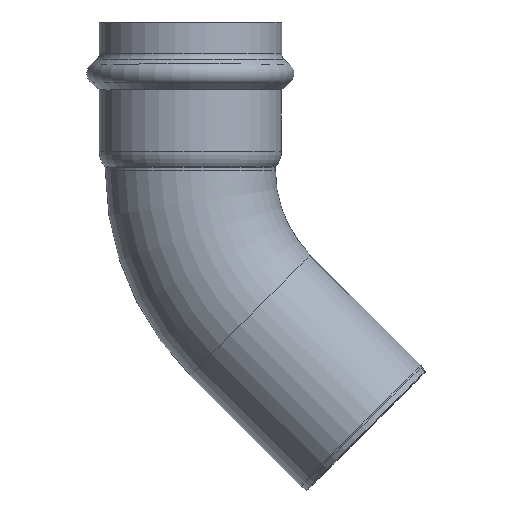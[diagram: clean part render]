
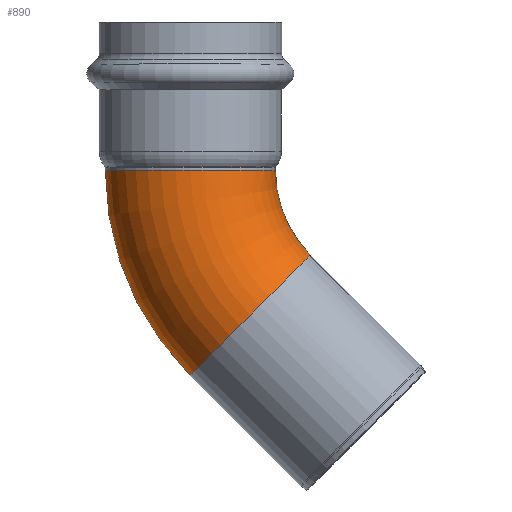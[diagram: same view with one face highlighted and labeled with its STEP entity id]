
A CAD part, top view. The second image highlights one B-rep face of the part: STEP entity #890.
In plain terms, the highlighted toroidal (fillet/blend) face has major radius 65 mm and minor radius 27 mm.
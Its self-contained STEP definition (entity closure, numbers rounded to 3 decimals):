
#120=CARTESIAN_POINT('',(58.006,36.052,0.
));
#130=VERTEX_POINT('',#120);
#160=CARTESIAN_POINT('',(31.006,36.052,0.));
#170=DIRECTION('',(0.,-1.,0.));
#180=DIRECTION('',(1.,0.,0.));
#190=AXIS2_PLACEMENT_3D('',#160,#170,#180);
#200=CIRCLE('',#190,27.);
#210=CARTESIAN_POINT('',(31.006,36.052,27.));
#220=VERTEX_POINT('',#210);
#230=EDGE_CURVE('',#130,#220,#200,.T.);
#250=CARTESIAN_POINT('',(4.006,36.052,
0.));
#260=VERTEX_POINT('',#250);
#270=EDGE_CURVE('',#220,#260,#200,.T.);
#470=CARTESIAN_POINT('',(96.006,36.052,0.));
#480=DIRECTION('',(0.,0.,1.));
#490=DIRECTION('',(-1.,0.,0.));
#500=AXIS2_PLACEMENT_3D('',#470,#480,#490);
#510=TOROIDAL_SURFACE('',#500,65.,27.);
#520=CARTESIAN_POINT('',(50.045,-9.91,0.));
#530=DIRECTION('',(0.707,-0.707,0.));
#540=DIRECTION('',(0.707,0.707,0.));
#550=AXIS2_PLACEMENT_3D('',#520,#530,#540);
#560=CIRCLE('',#550,27.);
#570=CARTESIAN_POINT('',(50.045,-9.91,27.));
#580=VERTEX_POINT('',#570);
#590=CARTESIAN_POINT('',(30.953,-29.002,
0.));
#600=VERTEX_POINT('',#590);
#610=EDGE_CURVE('',#580,#600,#560,.T.);
#620=ORIENTED_EDGE('',*,*,#610,.F.);
#630=CARTESIAN_POINT('',(96.006,36.052,0.)
);
#640=DIRECTION('',(0.,0.,1.));
#650=DIRECTION('',(-1.,0.,0.));
#660=AXIS2_PLACEMENT_3D('',#630,#640,#650);
#670=CIRCLE('',#660,92.);
#680=EDGE_CURVE('',#260,#600,#670,.T.);
#690=ORIENTED_EDGE('',*,*,#680,.T.);
#700=ORIENTED_EDGE('',*,*,#270,.T.);
#710=ORIENTED_EDGE('',*,*,#230,.T.);
#720=CARTESIAN_POINT('',(96.006,36.052,0.));
#730=DIRECTION('',(0.,0.,1.));
#740=DIRECTION('',(-1.,0.,0.));
#750=AXIS2_PLACEMENT_3D('',#720,#730,#740);
#760=CIRCLE('',#750,38.);
#770=CARTESIAN_POINT('',(69.136,9.182,0.));
#780=VERTEX_POINT('',#770);
#790=EDGE_CURVE('',#130,#780,#760,.T.);
#800=ORIENTED_EDGE('',*,*,#790,.F.);
#810=CARTESIAN_POINT('',(68.868,8.913,
4.511));
#820=VERTEX_POINT('',#810);
#830=EDGE_CURVE('',#780,#820,#560,.T.);
#840=ORIENTED_EDGE('',*,*,#830,.F.);
#850=EDGE_CURVE('',#820,#580,#560,.T.);
#860=ORIENTED_EDGE('',*,*,#850,.F.);
#870=EDGE_LOOP('',(#860,#840,#800,#710,#700,#690,#620));
#880=FACE_OUTER_BOUND('',#870,.T.);
#890=ADVANCED_FACE('',(#880),#510,.T.);
